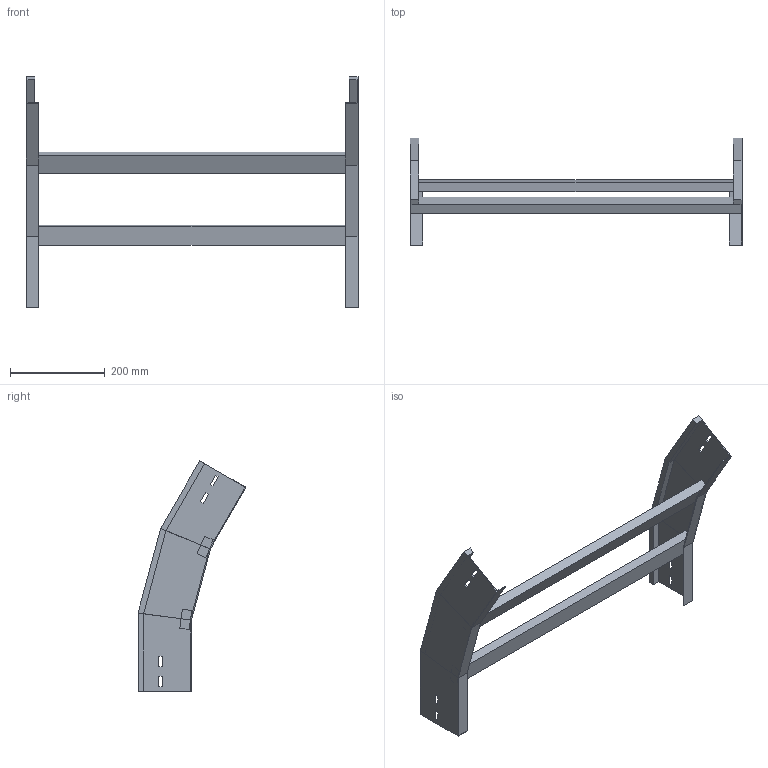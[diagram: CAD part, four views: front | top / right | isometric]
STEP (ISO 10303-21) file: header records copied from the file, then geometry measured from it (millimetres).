
FILE_DESCRIPTION (( 'STEP AP214' ), '1' );
FILE_NAME ('A2_35B3J700.step', '2025-02-21T14:48:09', ( '' ), ( '' ), 'SwSTEP 2.0', 'SolidWorks 2023', '' );
FILE_SCHEMA (( 'AUTOMOTIVE_DESIGN' ));
Length unit declared in the file: millimetre
Products named in the file (3): A2_35B3J700; LONGH.DISCESA_30°_H112.5_R300; TRAVERSINO_700
Assembly tree (5 placements, depth 2):
  A2_35B3J700
    LONGH.DISCESA_30°_H112.5_R300  x2
    TRAVERSINO_700  x3
Bounding box: 700 x 227.62 x 485.87 mm (x, y, z)
Volume: 2148704.7 mm3; surface area: 558058.8 mm2
Topology: 5 solids, 5 shells, 102 faces, 244 edges, 152 vertices
Faces by surface type: plane 102
Entity records: 1480 total; most frequent: CARTESIAN_POINT 244, ORIENTED_EDGE 232, DIRECTION 228, EDGE_CURVE 116, VECTOR 116, LINE 116, VERTEX_POINT 72, AXIS2_PLACEMENT_3D 56
